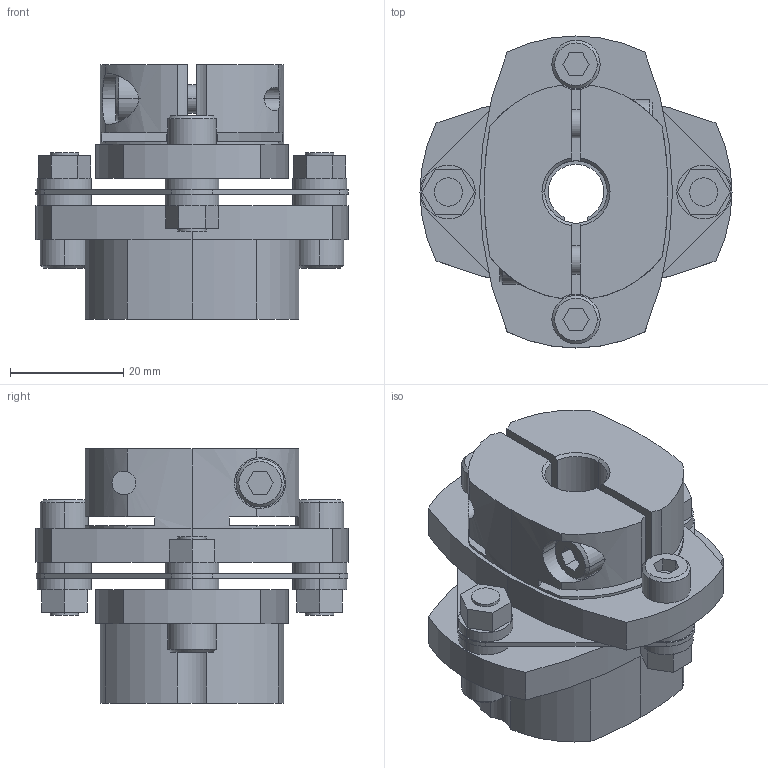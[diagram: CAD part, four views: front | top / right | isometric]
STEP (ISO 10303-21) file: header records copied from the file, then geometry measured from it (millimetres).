
FILE_DESCRIPTION((''),'2;1');
FILE_NAME('LCS-55M-11L亊11B.stp','2015-10-27T19:09:16',(''),(''),'AutoCAD STEP 2000i','AutoCAD 2000i',', , ');
FILE_SCHEMA(('CONFIG_CONTROL_DESIGN'));
Length unit declared in the file: millimetre
Products named in the file (6): LCS-55M-11L×10B; 忣兜1; LC55M-L011; LC55-B010-1; LC55-B010; LCS55-ITA
Assembly tree (6 placements, depth 2):
  LCS-55M-11L×10B
    忣兜1
    LC55M-L011  x2
    LC55-B010-1
    LC55-B010
    LCS55-ITA
Bounding box: 55 x 55 x 44.8 mm (x, y, z)
Volume: 46311.5 mm3; surface area: 19278.6 mm2
Topology: 1 solids, 1 shells, 240 faces, 608 edges, 400 vertices
Faces by surface type: plane 115, cylinder 104, cone 21
Entity records: 7727 total; most frequent: CARTESIAN_POINT 1547, DIRECTION 1320, ORIENTED_EDGE 1216, EDGE_CURVE 608, AXIS2_PLACEMENT_3D 487, VERTEX_POINT 400, VECTOR 346, LINE 346
